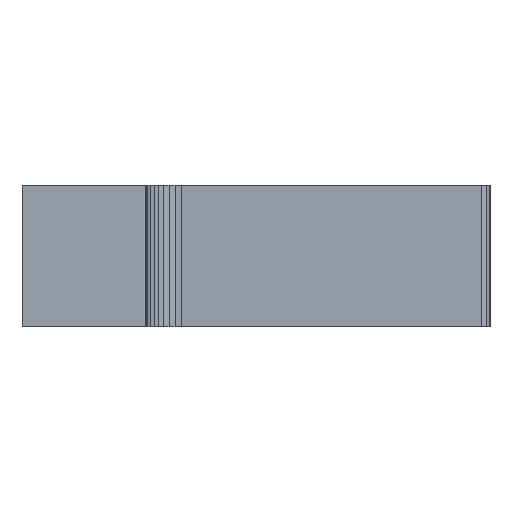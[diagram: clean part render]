
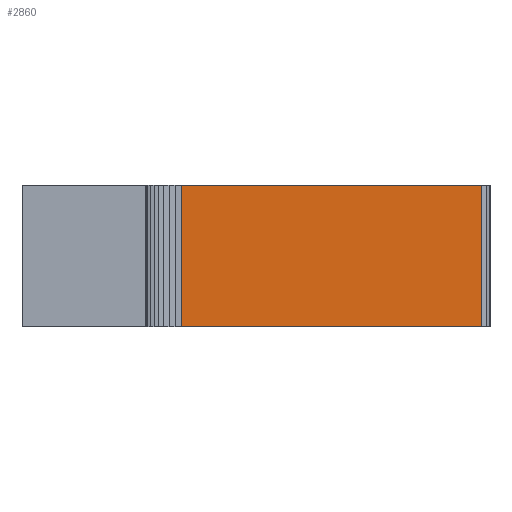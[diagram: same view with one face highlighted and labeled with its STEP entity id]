
A CAD part, front view. The second image highlights one B-rep face of the part: STEP entity #2860.
In plain terms, the highlighted planar face has unit normal (0, -1, 0) as drawn and (0, 1, 0) by its records, which use the part's own axes.
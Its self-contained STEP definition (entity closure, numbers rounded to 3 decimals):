
#72 = PLANE('',#73);
#73 = AXIS2_PLACEMENT_3D('',#74,#75,#76);
#74 = CARTESIAN_POINT('',(15.571,43.545,
    0.));
#75 = DIRECTION('',(0.,0.,1.));
#76 = DIRECTION('',(1.,0.,0.));
#126 = PLANE('',#127);
#127 = AXIS2_PLACEMENT_3D('',#128,#129,#130);
#128 = CARTESIAN_POINT('',(11.109,72.814,8.));
#129 = DIRECTION('',(0.,0.,1.));
#130 = DIRECTION('',(1.,0.,0.));
#2752 = PLANE('',#2753);
#2753 = AXIS2_PLACEMENT_3D('',#2754,#2755,#2756);
#2754 = CARTESIAN_POINT('',(12.935,21.086,4.));
#2755 = DIRECTION('',(0.087,-0.996,
    0.));
#2756 = DIRECTION('',(-0.996,-0.087,
    0.));
#2790 = VERTEX_POINT('',#2791);
#2791 = CARTESIAN_POINT('',(13.109,21.102,
    0.));
#2812 = EDGE_CURVE('',#2813,#2790,#2815,.T.);
#2813 = VERTEX_POINT('',#2814);
#2814 = CARTESIAN_POINT('',(13.109,21.102,8.));
#2815 = SURFACE_CURVE('',#2816,(#2820,#2827),.PCURVE_S1.);
#2816 = LINE('',#2817,#2818);
#2817 = CARTESIAN_POINT('',(13.109,21.102,8.));
#2818 = VECTOR('',#2819,1.);
#2819 = DIRECTION('',(0.,0.,-1.));
#2820 = PCURVE('',#2752,#2821);
#2821 = DEFINITIONAL_REPRESENTATION('',(#2822),#2826);
#2822 = LINE('',#2823,#2824);
#2823 = CARTESIAN_POINT('',(-0.174,-4.));
#2824 = VECTOR('',#2825,1.);
#2825 = DIRECTION('',(0.,1.));
#2826 = ( GEOMETRIC_REPRESENTATION_CONTEXT(2) 
PARAMETRIC_REPRESENTATION_CONTEXT() REPRESENTATION_CONTEXT('2D SPACE',''
  ) );
#2827 = PCURVE('',#2828,#2833);
#2828 = PLANE('',#2829);
#2829 = AXIS2_PLACEMENT_3D('',#2830,#2831,#2832);
#2830 = CARTESIAN_POINT('',(13.109,21.102,8.));
#2831 = DIRECTION('',(0.,1.,0.));
#2832 = DIRECTION('',(0.,0.,1.));
#2833 = DEFINITIONAL_REPRESENTATION('',(#2834),#2838);
#2834 = LINE('',#2835,#2836);
#2835 = CARTESIAN_POINT('',(0.,0.));
#2836 = VECTOR('',#2837,1.);
#2837 = DIRECTION('',(-1.,0.));
#2838 = ( GEOMETRIC_REPRESENTATION_CONTEXT(2) 
PARAMETRIC_REPRESENTATION_CONTEXT() REPRESENTATION_CONTEXT('2D SPACE',''
  ) );
#2860 = ADVANCED_FACE('',(#2861),#2828,.T.);
#2861 = FACE_BOUND('',#2862,.F.);
#2862 = EDGE_LOOP('',(#2863,#2864,#2887,#2915));
#2863 = ORIENTED_EDGE('',*,*,#2812,.T.);
#2864 = ORIENTED_EDGE('',*,*,#2865,.T.);
#2865 = EDGE_CURVE('',#2790,#2866,#2868,.T.);
#2866 = VERTEX_POINT('',#2867);
#2867 = CARTESIAN_POINT('',(30.089,21.102,
    0.));
#2868 = SURFACE_CURVE('',#2869,(#2873,#2880),.PCURVE_S1.);
#2869 = LINE('',#2870,#2871);
#2870 = CARTESIAN_POINT('',(13.109,21.102,
    0.));
#2871 = VECTOR('',#2872,1.);
#2872 = DIRECTION('',(1.,0.,0.));
#2873 = PCURVE('',#2828,#2874);
#2874 = DEFINITIONAL_REPRESENTATION('',(#2875),#2879);
#2875 = LINE('',#2876,#2877);
#2876 = CARTESIAN_POINT('',(-8.,0.));
#2877 = VECTOR('',#2878,1.);
#2878 = DIRECTION('',(0.,1.));
#2879 = ( GEOMETRIC_REPRESENTATION_CONTEXT(2) 
PARAMETRIC_REPRESENTATION_CONTEXT() REPRESENTATION_CONTEXT('2D SPACE',''
  ) );
#2880 = PCURVE('',#72,#2881);
#2881 = DEFINITIONAL_REPRESENTATION('',(#2882),#2886);
#2882 = LINE('',#2883,#2884);
#2883 = CARTESIAN_POINT('',(-2.462,-22.444));
#2884 = VECTOR('',#2885,1.);
#2885 = DIRECTION('',(1.,0.));
#2886 = ( GEOMETRIC_REPRESENTATION_CONTEXT(2) 
PARAMETRIC_REPRESENTATION_CONTEXT() REPRESENTATION_CONTEXT('2D SPACE',''
  ) );
#2887 = ORIENTED_EDGE('',*,*,#2888,.T.);
#2888 = EDGE_CURVE('',#2866,#2889,#2891,.T.);
#2889 = VERTEX_POINT('',#2890);
#2890 = CARTESIAN_POINT('',(30.089,21.102,8.));
#2891 = SURFACE_CURVE('',#2892,(#2896,#2903),.PCURVE_S1.);
#2892 = LINE('',#2893,#2894);
#2893 = CARTESIAN_POINT('',(30.089,21.102,
    0.));
#2894 = VECTOR('',#2895,1.);
#2895 = DIRECTION('',(0.,0.,1.));
#2896 = PCURVE('',#2828,#2897);
#2897 = DEFINITIONAL_REPRESENTATION('',(#2898),#2902);
#2898 = LINE('',#2899,#2900);
#2899 = CARTESIAN_POINT('',(-8.,16.98));
#2900 = VECTOR('',#2901,1.);
#2901 = DIRECTION('',(1.,0.));
#2902 = ( GEOMETRIC_REPRESENTATION_CONTEXT(2) 
PARAMETRIC_REPRESENTATION_CONTEXT() REPRESENTATION_CONTEXT('2D SPACE',''
  ) );
#2903 = PCURVE('',#2904,#2909);
#2904 = PLANE('',#2905);
#2905 = AXIS2_PLACEMENT_3D('',#2906,#2907,#2908);
#2906 = CARTESIAN_POINT('',(30.233,21.148,4.));
#2907 = DIRECTION('',(-0.303,0.953,0.)
  );
#2908 = DIRECTION('',(0.953,0.303,0.));
#2909 = DEFINITIONAL_REPRESENTATION('',(#2910),#2914);
#2910 = LINE('',#2911,#2912);
#2911 = CARTESIAN_POINT('',(-0.152,4.));
#2912 = VECTOR('',#2913,1.);
#2913 = DIRECTION('',(0.,-1.));
#2914 = ( GEOMETRIC_REPRESENTATION_CONTEXT(2) 
PARAMETRIC_REPRESENTATION_CONTEXT() REPRESENTATION_CONTEXT('2D SPACE',''
  ) );
#2915 = ORIENTED_EDGE('',*,*,#2916,.T.);
#2916 = EDGE_CURVE('',#2889,#2813,#2917,.T.);
#2917 = SURFACE_CURVE('',#2918,(#2922,#2929),.PCURVE_S1.);
#2918 = LINE('',#2919,#2920);
#2919 = CARTESIAN_POINT('',(30.089,21.102,8.));
#2920 = VECTOR('',#2921,1.);
#2921 = DIRECTION('',(-1.,0.,0.));
#2922 = PCURVE('',#2828,#2923);
#2923 = DEFINITIONAL_REPRESENTATION('',(#2924),#2928);
#2924 = LINE('',#2925,#2926);
#2925 = CARTESIAN_POINT('',(0.,16.98));
#2926 = VECTOR('',#2927,1.);
#2927 = DIRECTION('',(0.,-1.));
#2928 = ( GEOMETRIC_REPRESENTATION_CONTEXT(2) 
PARAMETRIC_REPRESENTATION_CONTEXT() REPRESENTATION_CONTEXT('2D SPACE',''
  ) );
#2929 = PCURVE('',#126,#2930);
#2930 = DEFINITIONAL_REPRESENTATION('',(#2931),#2935);
#2931 = LINE('',#2932,#2933);
#2932 = CARTESIAN_POINT('',(18.98,-51.712));
#2933 = VECTOR('',#2934,1.);
#2934 = DIRECTION('',(-1.,0.));
#2935 = ( GEOMETRIC_REPRESENTATION_CONTEXT(2) 
PARAMETRIC_REPRESENTATION_CONTEXT() REPRESENTATION_CONTEXT('2D SPACE',''
  ) );
